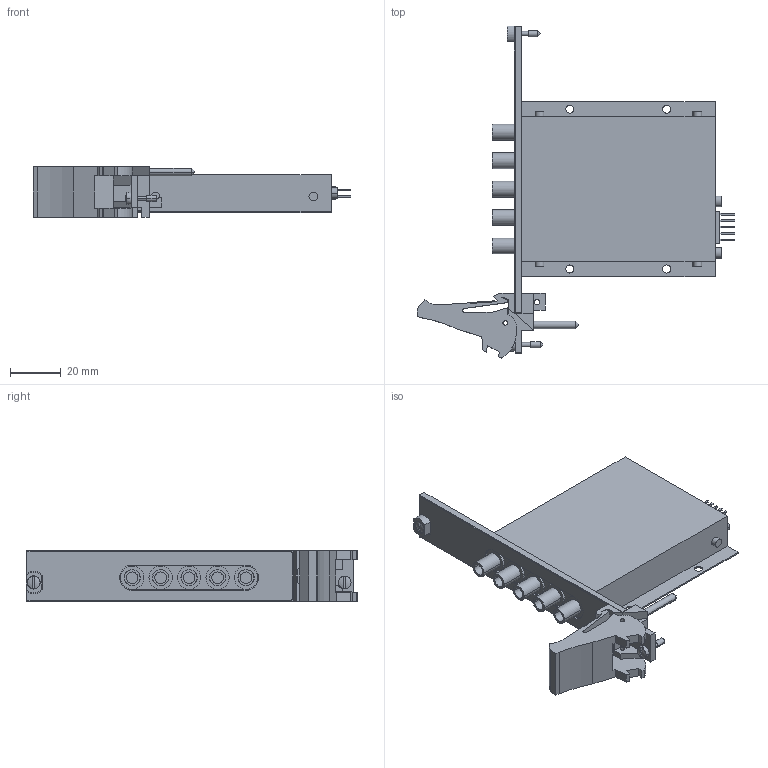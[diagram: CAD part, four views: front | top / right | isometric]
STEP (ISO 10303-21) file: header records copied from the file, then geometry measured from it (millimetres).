
FILE_DESCRIPTION((''),'2;1');
FILE_NAME('CU_PXI-2591','2011-08-15T',('jjorden'),(''),'PRO/ENGINEER BY PARAMETRIC TECHNOLOGY CORPORATION, 2010230','PRO/ENGINEER BY PARAMETRIC TECHNOLOGY CORPORATION, 2010230','');
FILE_SCHEMA(('CONFIG_CONTROL_DESIGN'));
Length unit declared in the file: inch
Products named in the file (1): CU_PXI-2591
Bounding box: 124.97 x 130.62 x 20.02 mm (x, y, z)
Volume: 81267.9 mm3; surface area: 26731 mm2
Topology: 1 solids, 1 shells, 373 faces, 936 edges, 617 vertices
Faces by surface type: plane 234, cylinder 129, cone 6, sphere 4
Entity records: 11226 total; most frequent: DIRECTION 1951, CARTESIAN_POINT 1926, ORIENTED_EDGE 1864, EDGE_CURVE 932, VECTOR 657, LINE 657, AXIS2_PLACEMENT_3D 647, VERTEX_POINT 617
